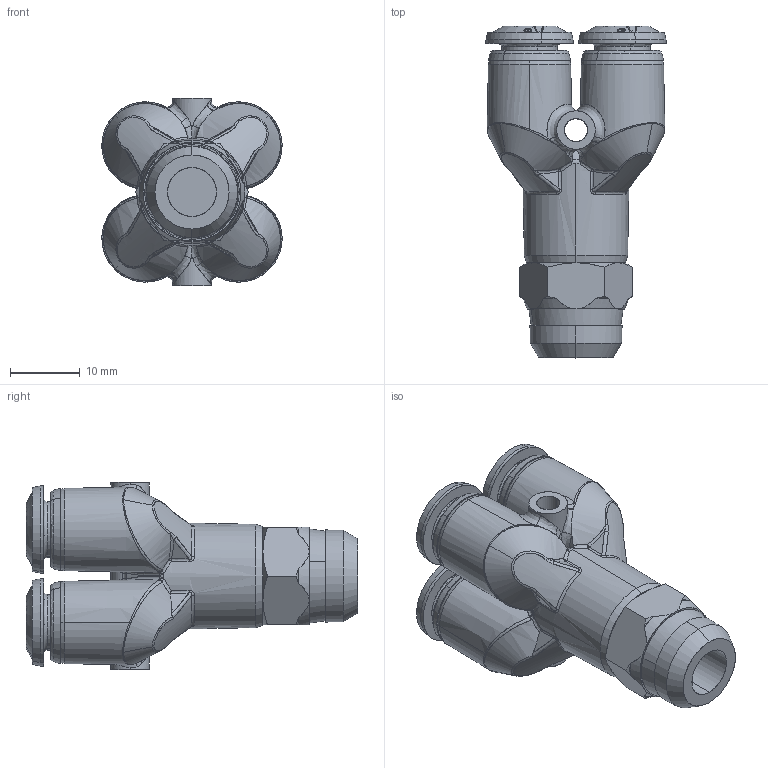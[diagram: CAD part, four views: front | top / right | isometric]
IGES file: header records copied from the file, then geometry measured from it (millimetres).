
Start section: SolidWorks IGES file using analytic representation for surfaces
Global section: file name: K:\Disegni Esecutivi\ALPHA TECHNOLOGIES\85000\Assiemi-85000\85340\IGES\8534000004A.IGS; native system: SolidWorks 2016; preprocessor: SolidWorks 2016; author: cad06; date: 191011.100026; units: millimetre
Bounding box: 25.8 x 47.5 x 26.8 mm (x, y, z)
Surface area: 7214.5 mm2 (no closed solid volume)
Topology: 0 solids, 0 shells, 470 faces, 5095 edges, 5089 vertices
Faces by surface type: bspline 313, revolution 157
